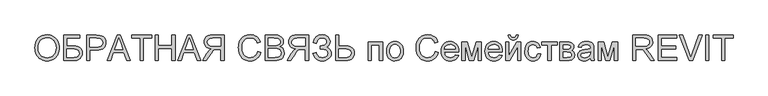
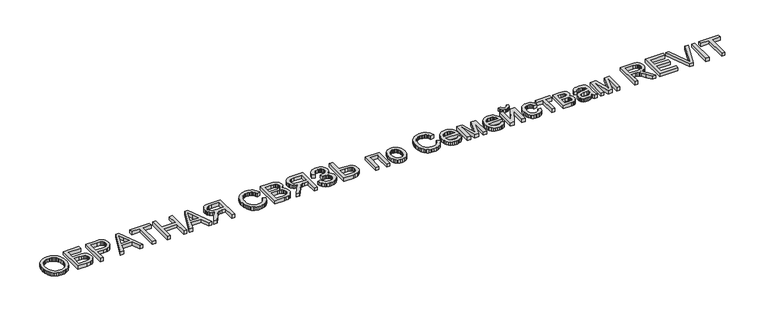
"""IFC4 building model written with IfcOpenShell, lengths in millimetres: proxy geometry, VALTEC_Ссылка : ПРЕДЛОЖЕНИЯ, ПОЖЕЛАНИЯ, ОШИБКИ по Семействам REVIT."""

from ifc_helpers import new_model, si_unit, origin, origin_with_axes, place, context, project, spatial, polyline, outline, extrude, source, transform, mapped, element, save


def generic_models_9d3dee3a(model_context):
    return source(origin(), model_context, "Body", "SweptSolid", [
        extrude(outline(polyline([(-89.3041113, 7.8024761), (-85.1194536, 66.7172448), (-72.5654805, 118.8721819), (-51.642192, 164.2672872), (-22.3495881, 202.9025609), (13.5572274, 233.7509991), (54.323151, 255.7855977), (99.9481826, 269.0063569), (150.4323223, 273.4132767), (184.2238164, 271.3439404), (216.3138562, 265.1359318), (246.7024419, 254.7892507), (275.3895733, 240.3038971), (301.5705086, 222.116731), (324.440506, 200.6646121), (343.9995654, 175.9475406), (360.2476869, 147.9655163), (373.0162578, 117.3546686), (382.1366656, 84.7511268), (387.6089102, 50.1548908), (389.4329918, 13.5659607), (387.5131076, -23.5058145), (381.7534552, -58.5695672), (372.1540343, -91.6252973), (358.7148452, -122.6730048), (341.7539524, -150.8926195), (321.5894205, -175.4640711), (298.2212496, -196.3873596), (271.6494397, -213.662485), (242.9201551, -227.1821483), (213.0795604, -236.8390506), (182.1276554, -242.6331921), (150.0644403, -244.5645725), (115.6828021, -242.4300906), (83.1712308, -236.0266446), (52.5297263, -225.3542346), (23.7582886, -210.4128607), (-2.3919899, -191.7811704), (-25.1700168, -170.0378117), (-44.575792, -145.1827844), (-60.6093156, -117.2160886), (-73.1632887, -87.2605307), (-82.1304123, -56.4389173), (-87.5106865, -24.7512483), (-89.3041113, 7.8024761)]), holes=[polyline([(-26.5189174, 7.1893395), (-23.3804241, -34.4349754), (-13.9649443, -71.3841233), (1.727522, -103.6581042), (23.6969749, -131.256918), (50.4029085, -153.3604946), (80.3048169, -169.1487635), (113.4027002, -178.6217249), (149.6965583, -181.7793787), (186.6112172, -178.5910681), (220.0999751, -169.0261362), (250.1628319, -153.0845831), (276.7997876, -130.7664087), (298.6082921, -102.585115), (314.1857954, -69.054204), (323.5322973, -30.1736756), (326.647798, 14.0564701), (321.313509, 69.6373082), (305.3106422, 117.6765654), (293.411959, 138.5653649), (279.0530648, 156.9632968), (262.2339599, 172.870361), (242.9546441, 186.2865575), (221.8129256, 196.9359748), (199.4066129, 204.5427015), (175.7357057, 209.1067375), (150.8002043, 210.6280828), (115.7671084, 207.6965232), (83.2632013, 198.9018442), (53.2884829, 184.244046), (25.8429532, 163.7231284), (2.9346348, 136.3504087), (-13.4284497, 101.137204), (-23.2463005, 58.0835143), (-26.5189174, 7.1893395)])]), origin_with_axes(), (0.0, 0.0, 1.0), 70.0),
        extrude(outline(polyline([(475.7626333, 265.5651274), (789.6886026, 265.5651274), (789.6886026, 202.7799336), (538.5478272, 202.7799336), (538.5478272, 53.6650982), (656.1474383, 53.6650982), (714.6100187, 50.4767876), (759.7675336, 40.9118557), (778.0619987, 33.1173559), (794.4404117, 22.4870991), (808.9027726, 9.0210853), (821.4490815, -7.2806857), (831.588829, -25.7207707), (838.8315057, -45.6017268), (844.6256472, -89.6862526), (840.5023031, -126.7043783), (828.1322711, -161.2393006), (807.5768646, -191.4822663), (778.8973974, -215.6245223), (759.6525705, -224.852229), (734.6595874, -231.4434481), (667.4291528, -236.7164233), (475.7626333, -236.7164233), (475.7626333, 265.5651274)]), holes=[polyline([(538.5478272, -173.9312295), (673.0700101, -173.9312295), (720.618758, -168.7502247), (739.3117618, -162.2739688), (754.6171857, -153.2072104), (766.5273653, -141.5499497), (775.0346364, -127.3021866), (780.1389991, -110.4639211), (781.8404533, -91.0351532), (777.9470355, -64.0264834), (766.2667822, -41.8615932), (747.6427562, -25.4295308), (722.9180204, -15.6193442), (685.3787285, -10.7449078), (628.311034, -9.1200956), (538.5478272, -9.1200956), (538.5478272, -173.9312295)])]), origin_with_axes(), (0.0, 0.0, 1.0), 70.0),
        extrude(outline(polyline([(930.9552887, -236.7164233), (930.9552887, 265.5651274), (1117.1035783, 265.5651274), (1192.1515053, 260.7826615), (1225.6134384, 251.8461947), (1253.1586028, 237.2995275), (1275.3388214, 216.4835379), (1292.7059173, 188.7391041), (1303.9263181, 156.012935), (1307.6664518, 120.2517393), (1305.1410952, 89.4186296), (1297.5650253, 61.0533949), (1284.9382422, 35.1560353), (1267.260746, 11.7265508), (1242.9920306, -7.6945529), (1210.5915903, -21.5667698), (1170.059425, -29.8900999), (1121.3955349, -32.6645433), (993.7404825, -32.6645433), (993.7404825, -236.7164233), (930.9552887, -236.7164233)]), holes=[polyline([(993.7404825, 30.1206505), (1125.0743548, 30.1206505), (1155.2713353, 31.5615217), (1180.7471634, 35.8841351), (1201.5018393, 43.0884908), (1217.5353629, 53.1745889), (1229.499192, 65.8741819), (1238.0447842, 80.9190227), (1243.1721395, 98.3091112), (1244.8812579, 118.0444474), (1240.8498844, 146.2487337), (1228.7557638, 170.038436), (1210.101081, 187.9420264), (1186.3880207, 198.487977), (1123.6028268, 202.7799336), (993.7404825, 202.7799336), (993.7404825, 30.1206505)])]), origin_with_axes(), (0.0, 0.0, 1.0), 70.0),
        extrude(outline(polyline([(1335.5028561, -236.7164233), (1535.9985434, 265.5651274), (1589.4640601, 265.5651274), (1789.9597474, -236.7164233), (1723.618361, -236.7164233), (1666.1061424, -79.7534387), (1459.2338338, -79.7534387), (1401.8442425, -236.7164233), (1335.5028561, -236.7164233)]), holes=[polyline([(1482.2877721, -16.9682449), (1643.1748314, -16.9682449), (1597.925346, 106.5174782), (1562.7313018, 202.7799336), (1531.4613322, 117.3086834), (1482.2877721, -16.9682449)])]), origin_with_axes(), (0.0, 0.0, 1.0), 70.0),
        extrude(outline(polyline([(1982.6072856, -236.7164233), (1982.6072856, 202.7799336), (1817.7961517, 202.7799336), (1817.7961517, 265.5651274), (2210.2036133, 265.5651274), (2210.2036133, 202.7799336), (2045.3924794, 202.7799336), (2045.3924794, -236.7164233), (1982.6072856, -236.7164233)])), origin_with_axes(), (0.0, 0.0, 1.0), 70.0),
        extrude(outline(polyline([(2724.6252699, -236.7164233), (2925.1209572, 265.5651274), (2978.5864739, 265.5651274), (3179.0821612, -236.7164233), (3112.7407748, -236.7164233), (3055.2285562, -79.7534387), (2848.3562476, -79.7534387), (2790.9666563, -236.7164233), (2724.6252699, -236.7164233)]), holes=[polyline([(2871.4101859, -16.9682449), (3032.2972452, -16.9682449), (2987.0477597, 106.5174782), (2951.8537155, 202.7799336), (2920.5837459, 117.3086834), (2871.4101859, -16.9682449)])]), origin_with_axes(), (0.0, 0.0, 1.0), 70.0),
        extrude(outline(polyline([(3638.5667732, -236.7164233), (3575.7815794, -236.7164233), (3575.7815794, -16.9682449), (3499.9978884, -16.9682449), (3463.5775708, -19.1755368), (3433.7178156, -31.1317017), (3418.0981592, -43.5937043), (3400.5471223, -63.6892583), (3353.3355996, -132.6058187), (3287.9752318, -236.7164233), (3215.0119694, -236.7164233), (3298.766437, -100.6000851), (3349.6567797, -35.9754813), (3364.647971, -22.639759), (3385.3413332, -9.1200956), (3352.09783, -2.4752271), (3323.4911728, 7.5265646), (3299.5213615, 20.8852796), (3280.1883962, 37.6009178), (3265.3006717, 57.0526782), (3254.6665828, 78.6197602), (3248.2861295, 102.3021637), (3246.1593117, 128.0998886), (3251.2943312, 167.8771293), (3266.6993897, 204.0675206), (3290.7036899, 233.2528255), (3321.6364344, 252.0148073), (3363.9581922, 262.1775474), (3422.1295327, 265.5651274), (3638.5667732, 265.5651274), (3638.5667732, -236.7164233)]), holes=[polyline([(3575.7815794, 45.816949), (3575.7815794, 202.7799336), (3419.4317314, 202.7799336), (3369.7523336, 197.3536742), (3350.6952799, 190.5708499), (3335.4933228, 181.0748959), (3323.8782153, 169.4789488), (3315.5817099, 156.3961454), (3310.6038066, 141.8264855), (3308.9445055, 125.7699693), (3312.4240561, 103.5897506), (3322.8627077, 83.1569715), (3339.9998773, 66.2650565), (3363.5749818, 54.7074305), (3394.8909366, 48.0395694), (3435.2506572, 45.816949), (3575.7815794, 45.816949)])]), origin_with_axes(), (0.0, 0.0, 1.0), 70.0),
        extrude(outline(polyline([(4297.8113086, -58.1710283), (4360.5965024, -74.3578361), (4348.1728209, -113.403145), (4331.6257953, -147.5203679), (4310.9554257, -176.709505), (4286.161712, -200.9705561), (4257.8041416, -220.0429383), (4226.4422015, -233.6660684), (4192.0758918, -241.8399465), (4154.7052124, -244.5645725), (4116.4186602, -242.5029005), (4081.8799058, -236.3178845), (4051.0889492, -226.0095244), (4024.0457905, -211.5778203), (4000.3787155, -193.23737), (3979.7160101, -171.2027713), (3962.0576743, -145.4740243), (3947.4037082, -116.0511289), (3935.8958995, -84.2063437), (3927.6760362, -51.2119272), (3922.7441182, -17.0678796), (3921.1001455, 18.2257993), (3922.958716, 56.0946522), (3928.5344275, 91.4649732), (3937.82728, 124.3367623), (3950.8372734, 154.7100196), (3967.273168, 182.0827393), (3986.8437237, 205.9529158), (4009.5489406, 226.3205492), (4035.3888187, 243.1856394), (4063.485806, 256.4102307), (4092.9623509, 265.8563673), (4123.8184533, 271.5240493), (4156.0541131, 273.4132767), (4191.9647608, 270.9683942), (4224.8940314, 263.633747), (4254.8419251, 251.4093348), (4281.8084418, 234.2951578), (4305.3490574, 212.7434043), (4325.0192478, 187.2062625), (4340.8190131, 157.6837323), (4352.7483532, 124.175814), (4289.9631593, 109.2152795), (4280.0763307, 133.9055263), (4268.1968079, 155.0012595), (4254.324591, 172.502479), (4238.45968, 186.4091848), (4220.5101043, 197.0049527), (4200.3838935, 204.5733583), (4178.0810475, 209.1144017), (4153.6015665, 210.6280828), (4125.4356012, 208.9496212), (4099.6761973, 203.9142364), (4076.3233548, 195.5219284), (4055.3770737, 183.7726972), (4037.1017692, 169.1953731), (4021.7618564, 152.3187866), (4009.3573354, 133.1429376), (3999.8882061, 111.6678261), (3987.886056, 65.7132336), (3983.8853393, 18.3484267), (3988.62182, -39.6543012), (4002.8312621, -89.8088799), (4013.6224673, -111.4641003), (4027.0501601, -130.1992573), (4043.1143406, -146.014351), (4061.8150087, -158.9093813), (4103.492973, -176.0618794), (4148.4512185, -181.7793787), (4175.7472961, -179.8326698), (4200.8590744, -173.9925431), (4223.7865533, -164.2589987), (4244.5297329, -150.6320364), (4262.5981038, -133.1729701), (4277.5011567, -111.9431133), (4289.2388917, -86.942466), (4297.8113086, -58.1710283)])), origin_with_axes(), (0.0, 0.0, 1.0), 70.0),
        extrude(outline(polyline([(2280.8369563, -236.7164233), (2280.8369563, 265.5651274), (2343.6221502, 265.5651274), (2343.6221502, 61.5132474), (2610.459224, 61.5132474), (2610.459224, 265.5651274), (2673.2444179, 265.5651274), (2673.2444179, -236.7164233), (2610.459224, -236.7164233), (2610.459224, -1.2719464), (2343.6221502, -1.2719464), (2343.6221502, -236.7164233), (2280.8369563, -236.7164233)])), origin_with_axes(), (0.0, 0.0, 1.0), 70.0),
        extrude(outline(polyline([(5302.3744101, -236.7164233), (5239.5892162, -236.7164233), (5239.5892162, -16.9682449), (5163.8055252, -16.9682449), (5127.3852077, -19.1755368), (5097.5254524, -31.1317017), (5081.905796, -43.5937043), (5064.3547592, -63.6892583), (5017.1432365, -132.6058187), (4951.7828687, -236.7164233), (4878.8196063, -236.7164233), (4962.5740738, -100.6000851), (5013.4644165, -35.9754813), (5028.4556078, -22.639759), (5049.14897, -9.1200956), (5015.9054668, -2.4752271), (4987.2988096, 7.5265646), (4963.3289984, 20.8852796), (4943.9960331, 37.6009178), (4929.1083086, 57.0526782), (4918.4742197, 78.6197602), (4912.0937663, 102.3021637), (4909.9669485, 128.0998886), (4915.1019681, 167.8771293), (4930.5070266, 204.0675206), (4954.5113268, 233.2528255), (4985.4440712, 252.0148073), (5027.7658291, 262.1775474), (5085.9371696, 265.5651274), (5302.3744101, 265.5651274), (5302.3744101, -236.7164233)]), holes=[polyline([(5239.5892162, 45.816949), (5239.5892162, 202.7799336), (5083.2393683, 202.7799336), (5033.5599705, 197.3536742), (5014.5029167, 190.5708499), (4999.3009597, 181.0748959), (4987.6858521, 169.4789488), (4979.3893467, 156.3961454), (4974.4114435, 141.8264855), (4972.7521424, 125.7699693), (4976.2316929, 103.5897506), (4986.6703445, 83.1569715), (5003.8075141, 66.2650565), (5027.3826187, 54.7074305), (5058.6985735, 48.0395694), (5099.0582941, 45.816949), (5239.5892162, 45.816949)])]), origin_with_axes(), (0.0, 0.0, 1.0), 70.0),
        extrude(outline(polyline([(5388.7040516, -95.4497372), (5451.4892454, -79.7534387), (5464.7483257, -113.736538), (5490.0555413, -147.7502941), (5506.9972736, -162.6380186), (5526.4911872, -173.2721076), (5548.5372822, -179.6525609), (5573.1355585, -181.7793787), (5598.1630305, -180.1813913), (5620.3930665, -175.387429), (5639.8256664, -167.397492), (5656.4608304, -156.21158), (5669.7927206, -142.7647267), (5679.3154994, -127.9919653), (5685.0291666, -111.8932959), (5686.9337223, -94.4687185), (5684.8528898, -75.9098383), (5678.6103922, -59.3513164), (5668.2062295, -44.7931529), (5653.6404018, -32.2353477), (5635.4877246, -22.1224249), (5614.3230135, -14.8989086), (5590.1462687, -10.5647989), (5562.95749, -9.1200956), (5529.9707377, -9.1200956), (5529.9707377, 53.6650982), (5570.9742518, 54.9373568), (5601.0332765, 58.7541325), (5624.1945138, 67.7978982), (5644.5046656, 84.7511268), (5658.6681224, 107.0846296), (5663.3892747, 132.2692178), (5661.818112, 147.5708096), (5657.1046239, 161.8377332), (5638.2506717, 187.2675761), (5624.57006, 197.4877978), (5608.6668279, 204.7879561), (5590.5409754, 209.1680511), (5570.1925025, 210.6280828), (5535.4123256, 206.1368568), (5506.1197217, 192.6631787), (5483.67892, 171.7705471), (5469.4541495, 145.0224603), (5461.8665834, 119.1174365), (5459.3373947, 100.7539936), (5396.5522008, 116.4502921), (5404.325624, 153.2384916), (5416.0576108, 185.1215978), (5431.7481611, 212.0996108), (5451.3972749, 234.1725305), (5475.0049523, 251.340357), (5502.5711933, 263.6030901), (5534.0959978, 270.96073), (5569.5793659, 273.4132767), (5603.7655667, 270.8649274), (5634.2192981, 263.2198797), (5660.9405601, 250.4781335), (5683.9293527, 232.6396889), (5702.4115909, 211.3906715), (5715.6131896, 188.4172074), (5723.5341488, 163.7192963), (5726.1744685, 137.2969384), (5722.0664529, 104.2565368), (5709.742406, 75.1555381), (5689.202328, 49.9939425), (5660.4462187, 28.7717499), (5695.3643514, 12.692241), (5724.0898039, -14.4543846), (5735.3025405, -31.5953863), (5743.3116381, -50.3382075), (5748.1170967, -70.6828483), (5749.7189162, -92.6293085), (5746.6455687, -123.6808482), (5737.4255262, -152.088236), (5722.0587887, -177.851472), (5700.5453562, -200.9705561), (5673.9582178, -220.0429383), (5643.3703628, -233.6660684), (5608.781791, -241.8399465), (5570.1925025, -244.5645725), (5536.8302041, -242.2346532), (5506.5182605, -235.2448953), (5479.2566719, -223.5952988), (5455.0454381, -207.2858637), (5433.8845591, -186.31659), (5415.7740351, -160.6874776), (5400.7138659, -130.3985267), (5388.7040516, -95.4497372)])), origin_with_axes(), (0.0, 0.0, 1.0), 70.0),
        extrude(outline(polyline([(5836.0485577, 265.5651274), (5898.8337516, 265.5651274), (5898.8337516, 53.6650982), (6016.4333627, 53.6650982), (6087.3886025, 48.7446765), (6114.3704476, 42.5941494), (6135.6884428, 33.9834115), (6167.4489217, 10.7455321), (6188.7860774, -19.6047325), (6200.880198, -54.0170275), (6204.9115716, -89.4409979), (6202.4896818, -117.9058673), (6195.2240124, -144.5619835), (6183.1145633, -169.4093466), (6166.1613347, -192.4479566), (6142.616887, -211.8154108), (6110.7337808, -225.6493066), (6070.512016, -233.9496441), (6021.9515926, -236.7164233), (5836.0485577, -236.7164233), (5836.0485577, 265.5651274)]), holes=[polyline([(5898.8337516, -173.9312295), (6021.8289653, -173.9312295), (6056.0266624, -172.3792273), (6083.6944541, -167.7232208), (6104.8323405, -159.96321), (6119.4403213, -149.0991948), (6136.4548636, -121.7073146), (6142.1263777, -89.1957433), (6138.0183621, -62.8615238), (6125.6943153, -40.7579472), (6106.5184663, -24.3105564), (6081.8550442, -14.9448939), (6044.9288889, -10.5762952), (5988.9648404, -9.1200956), (5898.8337516, -9.1200956), (5898.8337516, -173.9312295)])]), origin_with_axes(), (0.0, 0.0, 1.0), 70.0),
        extrude(outline(polyline([(6479.5967946, 132.1465905), (6762.1301669, 132.1465905), (6762.1301669, -236.7164233), (6699.3449731, -236.7164233), (6699.3449731, 69.3613967), (6542.3819885, 69.3613967), (6542.3819885, -236.7164233), (6479.5967946, -236.7164233), (6479.5967946, 132.1465905)])), origin_with_axes(), (0.0, 0.0, 1.0), 70.0),
        extrude(outline(polyline([(6840.6116592, -52.2849164), (6844.0069035, -4.5139065), (6854.1926362, 36.6505559), (6871.1688574, 71.2084709), (6894.9355672, 99.1598383), (6918.8632253, 117.0251077), (6945.2740868, 129.7860144), (6974.1681519, 137.4425584), (7005.5454204, 139.9947397), (7040.1838095, 136.8869033), (7071.5035964, 127.563394), (7099.5047812, 112.0242118), (7124.1873638, 90.2693567), (7144.3327352, 63.0345928), (7158.7222861, 31.0556839), (7167.3560167, -5.6673698), (7170.2339269, -47.1345685), (7165.1448926, -110.5635558), (7158.7835998, -136.5988712), (7149.8777898, -158.8480677), (7138.5385938, -178.0660698), (7124.8771426, -195.0078021), (7108.8934363, -209.6732646), (7090.5874749, -222.0624572), (7049.8598724, -238.9390437), (7005.5454204, -244.5645725), (6970.4011935, -241.4682324), (6938.7901667, -232.179212), (6910.7123398, -216.6975114), (6886.167713, -195.0231305), (6866.2369394, -167.5239514), (6852.0006727, -134.567856), (6843.4589126, -96.1548443), (6840.6116592, -52.2849164)]), holes=[polyline([(6903.3968531, -52.1622891), (6905.2132704, -82.6160205), (6910.6625225, -108.9847289), (6919.7446092, -131.2684143), (6932.4595307, -149.4670768), (6947.9259029, -163.6037089), (6965.2623419, -173.7013032), (6984.4688478, -179.7598598), (7005.5454204, -181.7793787), (7026.5146941, -179.7483635), (7045.6445579, -173.655318), (7062.9350116, -163.5002421), (7078.3860554, -149.2831358), (7091.1009769, -130.9043645), (7100.1830637, -108.2642933), (7105.6323157, -81.3629224), (7107.4487331, -50.2002518), (7105.6208194, -20.7122106), (7100.1370784, 4.9667191), (7090.9975101, 26.8365373), (7078.2021144, 44.897244), (7062.6935891, 59.0338761), (7045.4146316, 69.1314704), (7026.3652421, 75.190027), (7005.5454204, 77.2095459), (6984.4688478, 75.1976912), (6965.2623419, 69.1621273), (6947.9259029, 59.102854), (6932.4595307, 45.0198713), (6919.7446092, 26.8748583), (6910.6625225, 4.6294939), (6905.2132704, -21.7162219), (6903.3968531, -52.1622891)])]), origin_with_axes(), (0.0, 0.0, 1.0), 70.0),
        extrude(outline(polyline([(7798.0858653, -58.1710283), (7860.8710592, -74.3578361), (7848.4473776, -113.403145), (7831.9003521, -147.5203679), (7811.2299825, -176.709505), (7786.4362688, -200.9705561), (7758.0786984, -220.0429383), (7726.7167583, -233.6660684), (7692.3504486, -241.8399465), (7654.9797692, -244.5645725), (7616.693217, -242.5029005), (7582.1544626, -236.3178845), (7551.363506, -226.0095244), (7524.3203473, -211.5778203), (7500.6532722, -193.23737), (7479.9905668, -171.2027713), (7462.3322311, -145.4740243), (7447.6782649, -116.0511289), (7436.1704563, -84.2063437), (7427.9505929, -51.2119272), (7423.0186749, -17.0678796), (7421.3747023, 18.2257993), (7423.2332728, 56.0946522), (7428.8089843, 91.4649732), (7438.1018367, 124.3367623), (7451.1118302, 154.7100196), (7467.5477248, 182.0827393), (7487.1182805, 205.9529158), (7509.8234974, 226.3205492), (7535.6633754, 243.1856394), (7563.7603628, 256.4102307), (7593.2369077, 265.8563673), (7624.09301, 271.5240493), (7656.3286699, 273.4132767), (7692.2393175, 270.9683942), (7725.1685882, 263.633747), (7755.1164819, 251.4093348), (7782.0829985, 234.2951578), (7805.6236141, 212.7434043), (7825.2938046, 187.2062625), (7841.0935698, 157.6837323), (7853.0229099, 124.175814), (7790.2377161, 109.2152795), (7780.3508875, 133.9055263), (7768.4713647, 155.0012595), (7754.5991478, 172.502479), (7738.7342368, 186.4091848), (7720.7846611, 197.0049527), (7700.6584503, 204.5733583), (7678.3556043, 209.1144017), (7653.8761232, 210.6280828), (7625.710158, 208.9496212), (7599.9507541, 203.9142364), (7576.5979116, 195.5219284), (7555.6516305, 183.7726972), (7537.376326, 169.1953731), (7522.0364132, 152.3187866), (7509.6318922, 133.1429376), (7500.1627629, 111.6678261), (7488.1606128, 65.7132336), (7484.1598961, 18.3484267), (7488.8963768, -39.6543012), (7503.1058189, -89.8088799), (7513.8970241, -111.4641003), (7527.3247169, -130.1992573), (7543.3888973, -146.014351), (7562.0895654, -158.9093813), (7603.7675298, -176.0618794), (7648.7257753, -181.7793787), (7676.0218529, -179.8326698), (7701.1336312, -173.9925431), (7724.0611101, -164.2589987), (7744.8042897, -150.6320364), (7762.8726606, -133.1729701), (7777.7757135, -111.9431133), (7789.5134484, -86.942466), (7798.0858653, -58.1710283)])), origin_with_axes(), (0.0, 0.0, 1.0), 70.0),
        extrude(outline(polyline([(8197.6057121, -126.8423341), (8259.1646326, -134.6904833), (8249.7261602, -159.3462412), (8236.984414, -181.0742715), (8220.9393941, -199.8745743), (8201.5911004, -215.7471496), (8179.1388024, -228.3547721), (8153.7817694, -237.3602168), (8125.5200016, -242.7634836), (8094.3534988, -244.5645725), (8055.3963283, -241.4567361), (8020.6851293, -232.1332268), (7990.2199015, -216.5940446), (7964.0006452, -194.8391895), (7942.9164083, -167.474134), (7927.8562391, -135.1043506), (7918.8201376, -97.7298391), (7915.8081038, -55.3505997), (7918.8507945, -11.5343212), (7927.9788665, 27.0856241), (7943.1923198, 60.5092362), (7964.4911545, 88.7365151), (7990.641433, 111.1619884), (8020.4092178, 127.1801836), (8053.7945088, 136.7911007), (8090.7973062, 139.9947397), (8126.6083191, 136.7987649), (8158.993431, 127.2108404), (8187.9526418, 111.2309662), (8213.4859516, 88.8591424), (8234.3287658, 60.6931772), (8249.2164903, 27.3308787), (8258.149125, -11.2277529), (8261.1266699, -54.9827177), (8260.7587879, -71.9052895), (7978.5932976, -71.9052895), (7982.2299644, -96.9595862), (7989.4611449, -118.9022144), (8000.286839, -137.733174), (8014.7070468, -153.4524651), (8031.9246906, -165.8454898), (8051.1426928, -174.6976503), (8072.3610533, -180.0089466), (8095.5797721, -181.7793787), (8128.99572, -178.4990976), (8157.1386926, -168.6582542), (8180.00869, -151.6437119), (8197.6057121, -126.8423341)]), holes=[polyline([(7978.5932976, -9.1200956), (8198.3414761, -9.1200956), (8189.8495334, 24.0505976), (8173.2028731, 47.7789863), (8156.0810319, 60.6548561), (8136.5986146, 69.851906), (8114.7556211, 75.3701359), (8090.5520515, 77.2095459), (8048.2302936, 71.3387624), (8029.8170334, 64.000283), (8013.2355188, 53.7264119), (7999.3211488, 40.9923299), (7988.9093219, 26.273218), (7982.0000382, 9.5690761), (7978.5932976, -9.1200956)])]), origin_with_axes(), (0.0, 0.0, 1.0), 70.0),
        extrude(outline(polyline([(8323.9118638, 132.1465905), (8431.946543, 132.1465905), (8515.2105013, -163.1400243), (8604.9737081, 132.1465905), (8708.4711761, 132.1465905), (8708.4711761, -236.7164233), (8645.6859822, -236.7164233), (8645.6859822, 60.2869741), (8555.4322661, -236.7164233), (8473.0266992, -236.7164233), (8386.6970576, 74.5117446), (8386.6970576, -236.7164233), (8323.9118638, -236.7164233), (8323.9118638, 132.1465905)])), origin_with_axes(), (0.0, 0.0, 1.0), 70.0),
        extrude(outline(polyline([(9060.9021274, -126.8423341), (9122.461048, -134.6904833), (9113.0225755, -159.3462412), (9100.2808293, -181.0742715), (9084.2358094, -199.8745743), (9064.8875157, -215.7471496), (9042.4352177, -228.3547721), (9017.0781848, -237.3602168), (8988.8164169, -242.7634836), (8957.6499141, -244.5645725), (8918.6927437, -241.4567361), (8883.9815446, -232.1332268), (8853.5163169, -216.5940446), (8827.2970605, -194.8391895), (8806.2128237, -167.474134), (8791.1526545, -135.1043506), (8782.116553, -97.7298391), (8779.1045191, -55.3505997), (8782.1472098, -11.5343212), (8791.2752818, 27.0856241), (8806.4887352, 60.5092362), (8827.7875698, 88.7365151), (8853.9378483, 111.1619884), (8883.7056331, 127.1801836), (8917.0909242, 136.7911007), (8954.0937215, 139.9947397), (8989.9047345, 136.7987649), (9022.2898464, 127.2108404), (9051.2490572, 111.2309662), (9076.7823669, 88.8591424), (9097.6251812, 60.6931772), (9112.5129057, 27.3308787), (9121.4455404, -11.2277529), (9124.4230853, -54.9827177), (9124.0552033, -71.9052895), (8841.889713, -71.9052895), (8845.5263798, -96.9595862), (8852.7575603, -118.9022144), (8863.5832544, -137.733174), (8878.0034622, -153.4524651), (8895.221106, -165.8454898), (8914.4391081, -174.6976503), (8935.6574686, -180.0089466), (8958.8761875, -181.7793787), (8992.2921353, -178.4990976), (9020.435108, -168.6582542), (9043.3051053, -151.6437119), (9060.9021274, -126.8423341)]), holes=[polyline([(8841.889713, -9.1200956), (9061.6378914, -9.1200956), (9053.1459487, 24.0505976), (9036.4992884, 47.7789863), (9019.3774472, 60.6548561), (8999.8950299, 69.851906), (8978.0520364, 75.3701359), (8953.8484668, 77.2095459), (8911.526709, 71.3387624), (8893.1134487, 64.000283), (8876.5319342, 53.7264119), (8862.6175641, 40.9923299), (8852.2057373, 26.273218), (8845.2964535, 9.5690761), (8841.889713, -9.1200956)])]), origin_with_axes(), (0.0, 0.0, 1.0), 70.0),
        extrude(outline(polyline([(9391.2601591, 265.5651274), (9438.3490545, 265.5651274), (9428.2169712, 225.358691), (9419.3226576, 209.2217006), (9407.8761626, 195.728862), (9394.1074125, 185.0794447), (9378.2463335, 177.472718), (9360.2929257, 172.908682), (9340.2471891, 171.3873367), (9318.4731735, 172.8971857), (9299.0137488, 177.4267328), (9281.868915, 184.9759779), (9267.0386721, 195.544921), (9254.7376179, 208.980278), (9245.1803502, 225.1287648), (9238.3668691, 243.9903813), (9234.2971745, 265.5651274), (9281.3860699, 265.5651274), (9288.0079458, 244.8870936), (9299.0444057, 230.1871422), (9314.5567631, 221.4039596), (9334.6063319, 218.476232), (9357.2310746, 221.3119891), (9373.6018233, 229.8192602), (9384.6382832, 244.4272411), (9391.2601591, 265.5651274)])), origin_with_axes(), (0.0, 0.0, 1.0), 70.0),
        extrude(outline(polyline([(9901.3898591, 132.1465905), (10199.6195298, 132.1465905), (10199.6195298, 69.3613967), (10081.8972914, 69.3613967), (10081.8972914, -236.7164233), (10019.1120975, -236.7164233), (10019.1120975, 69.3613967), (9901.3898591, 69.3613967), (9901.3898591, 132.1465905)])), origin_with_axes(), (0.0, 0.0, 1.0), 70.0),
        extrude(outline(polyline([(10254.5565745, 132.1465905), (10392.8802046, 132.1465905), (10437.3479408, 130.0465975), (10468.7252093, 123.7466183), (10491.8098045, 111.8517671), (10511.3995208, 92.967158), (10524.7812283, 68.3650496), (10529.2417975, 39.3177004), (10526.5439962, 15.9112085), (10518.4505923, -4.276316), (10504.930929, -21.3368436), (10485.9543494, -35.3623446), (10509.1922288, -48.406827), (10528.1381515, -69.3914292), (10540.7381099, -96.6606821), (10544.938096, -128.5591167), (10541.4508812, -154.2572069), (10534.300175, -176.4144329), (10523.4859771, -195.0307947), (10509.0082878, -210.1062923), (10490.8441143, -221.7482246), (10468.970464, -230.0638906), (10443.3873369, -235.0532901), (10414.094733, -236.7164233), (10254.5565745, -236.7164233), (10254.5565745, 132.1465905)]), holes=[polyline([(10317.3417683, -9.1200956), (10379.3911982, -9.1200956), (10430.5881092, -5.931785), (10443.7705473, -1.1493191), (10455.4814575, 6.8214575), (10463.7128171, 17.367408), (10466.4566037, 29.8753959), (10461.6434809, 48.6067208), (10447.2041126, 60.6548561), (10421.1151478, 67.1847615), (10381.3532355, 69.3613967), (10317.3417683, 69.3613967), (10317.3417683, -9.1200956)]), polyline([(10317.3417683, -173.9312295), (10394.3517326, -173.9312295), (10436.3209369, -171.0954724), (10462.6551564, -162.5882013), (10476.7879564, -147.1218291), (10482.1529021, -123.4087688), (10479.4704293, -107.6971419), (10471.4230106, -93.1811315), (10459.0683069, -81.8227749), (10443.463979, -75.5841094), (10388.220366, -71.9052895), (10317.3417683, -71.9052895), (10317.3417683, -173.9312295)])]), origin_with_axes(), (0.0, 0.0, 1.0), 70.0),
        extrude(outline(polyline([(10858.8640652, -189.6275279), (10828.8663542, -215.3486108), (10797.979595, -232.179212), (10765.4986805, -241.4682324), (10730.7185036, -244.5645725), (10702.763304, -242.7021699), (10678.249334, -237.1149621), (10657.1765935, -227.8029491), (10639.5450824, -214.7661309), (10625.6230482, -198.832242), (10615.678738, -180.8290169), (10609.7121519, -160.7564555), (10607.7232898, -138.6145579), (10610.7276595, -112.5869068), (10619.7407683, -88.9504886), (10633.6436421, -68.7169789), (10651.3173063, -52.8980531), (10672.0873106, -40.9418882), (10695.2792047, -32.2966613), (10749.6031126, -22.8543568), (10813.7985208, -12.9215429), (10858.4961832, -1.2719464), (10858.8640652, 12.7075694), (10854.5414518, 40.7279147), (10841.5736114, 59.0607008), (10828.4984722, 67.0008205), (10812.5722475, 72.6723346), (10772.1665417, 77.2095459), (10734.7652055, 74.1898479), (10708.6455838, 65.1307537), (10690.8339639, 48.3767945), (10678.3566329, 22.2725013), (10615.5714391, 30.1206505), (10626.4699432, 64.4563034), (10642.733393, 91.4343164), (10665.8793019, 112.0663649), (10697.425183, 127.3641246), (10736.0068072, 136.837086), (10780.2599456, 139.9947397), (10822.7043308, 137.2049679), (10856.3502049, 128.8356526), (10881.7187342, 116.2510226), (10899.3310847, 100.8153073), (10911.011338, 81.7314288), (10918.5835758, 58.2023095), (10921.649259, 3.2652649), (10921.649259, -74.8483454), (10924.8375697, -183.925357), (10929.5587219, -210.8880416), (10937.3455575, -236.7164233), (10874.5603637, -236.7164233), (10864.5049225, -214.8887583), (10858.8640652, -189.6275279)]), holes=[polyline([(10858.8640652, -64.0571402), (10816.6802631, -74.5111203), (10757.5738892, -83.3096313), (10703.5565496, -93.4876999), (10689.5003917, -100.4468009), (10679.0923969, -110.0423896), (10672.654462, -121.538702), (10670.5084837, -134.199974), (10675.1836507, -152.8699852), (10689.2091518, -168.1677449), (10712.2784185, -178.3764702), (10744.0848827, -181.7793787), (10777.8073989, -178.0239167), (10807.6058405, -166.7575306), (10831.7634249, -150.1568555), (10848.5633693, -130.3985267), (10856.0129797, -110.0423896), (10858.4961832, -81.8381033), (10858.8640652, -64.0571402)])]), origin_with_axes(), (0.0, 0.0, 1.0), 70.0),
        extrude(outline(polyline([(11007.9789006, 132.1465905), (11116.0135798, 132.1465905), (11199.2775381, -163.1400243), (11289.0407449, 132.1465905), (11392.5382129, 132.1465905), (11392.5382129, -236.7164233), (11329.753019, -236.7164233), (11329.753019, 60.2869741), (11239.4993029, -236.7164233), (11157.093736, -236.7164233), (11070.7640944, 74.5117446), (11070.7640944, -236.7164233), (11007.9789006, -236.7164233), (11007.9789006, 132.1465905)])), origin_with_axes(), (0.0, 0.0, 1.0), 70.0),
        extrude(outline(polyline([(11690.7678836, -236.7164233), (11690.7678836, 265.5651274), (11907.2051241, 265.5651274), (11965.3764646, 262.1775474), (12007.6982225, 252.0148073), (12038.6309669, 233.2528255), (12062.6352671, 204.0675206), (12078.0403256, 167.8771293), (12083.1753452, 128.0998886), (12081.0485274, 102.3021637), (12074.668074, 78.6197602), (12064.0339851, 57.0526782), (12049.1462606, 37.6009178), (12029.8132953, 20.8852796), (12005.8434841, 7.5265646), (11977.2368269, -2.4752271), (11943.9933236, -9.1200956), (11964.6866859, -22.639759), (11979.6778772, -35.9754813), (12030.5682198, -100.6000851), (12114.3226874, -236.7164233), (12041.359425, -236.7164233), (11975.9990572, -132.6058187), (11928.7875345, -63.6892583), (11911.2364977, -43.5937043), (11895.6168413, -31.1317017), (11865.757086, -19.1755368), (11829.3367685, -16.9682449), (11753.5530775, -16.9682449), (11753.5530775, -236.7164233), (11690.7678836, -236.7164233)]), holes=[polyline([(11753.5530775, 45.816949), (11894.0839996, 45.816949), (11934.4437202, 48.0395694), (11965.759675, 54.7074305), (11989.3347796, 66.2650565), (12006.4719492, 83.1569715), (12016.9106008, 103.5897506), (12020.3901513, 125.7699693), (12018.7308502, 141.8264855), (12013.752947, 156.3961454), (12005.4564416, 169.4789488), (11993.841334, 181.0748959), (11978.639377, 190.5708499), (11959.5823232, 197.3536742), (11909.9029254, 202.7799336), (11753.5530775, 202.7799336), (11753.5530775, 45.816949)])]), origin_with_axes(), (0.0, 0.0, 1.0), 70.0),
        extrude(outline(polyline([(12193.0494344, -236.7164233), (12193.0494344, 265.5651274), (12554.064299, 265.5651274), (12554.064299, 202.7799336), (12255.8346282, 202.7799336), (12255.8346282, 53.6650982), (12538.3680005, 53.6650982), (12538.3680005, -9.1200956), (12255.8346282, -9.1200956), (12255.8346282, -173.9312295), (12561.9124482, -173.9312295), (12561.9124482, -236.7164233), (12193.0494344, -236.7164233)])), origin_with_axes(), (0.0, 0.0, 1.0), 70.0),
        extrude(outline(polyline([(13126.9791928, -236.7164233), (13126.9791928, 265.5651274), (13189.7643866, 265.5651274), (13189.7643866, -236.7164233), (13126.9791928, -236.7164233)])), origin_with_axes(), (0.0, 0.0, 1.0), 70.0),
        extrude(outline(polyline([(4446.9261439, -236.7164233), (4446.9261439, 265.5651274), (4638.5926634, 265.5651274), (4691.3070877, 261.8709791), (4732.4638859, 250.788534), (4764.0097669, 232.0418806), (4787.8914398, 205.3551076), (4802.9286164, 173.9625106), (4807.9410085, 141.0983857), (4803.725694, 110.85542), (4791.0797504, 82.4212075), (4769.9112073, 57.5431876), (4740.1280941, 37.9687997), (4759.077849, 29.8907243), (4775.7053487, 19.390759), (4790.0105934, 6.4689039), (4801.9935829, -8.874841), (4818.226376, -44.9579333), (4823.637307, -86.9884513), (4819.9431586, -122.0138829), (4808.8607135, -154.4947974), (4792.3213522, -182.1166039), (4772.256455, -202.5647114), (4747.6850034, -217.3719617), (4717.6259787, -228.0711964), (4681.0983623, -234.5551166), (4637.1211354, -236.7164233), (4446.9261439, -236.7164233)]), holes=[polyline([(4509.7113378, 61.5132474), (4624.3678929, 61.5132474), (4664.4670304, 62.8621481), (4691.3224161, 66.90885), (4714.7595648, 76.2131988), (4731.6054945, 90.1467294), (4741.7682347, 108.4948439), (4745.1558147, 131.0429445), (4741.9981609, 152.9319232), (4732.5251995, 172.0004733), (4717.1661262, 186.8843657), (4696.3501367, 196.2193713), (4664.4057168, 201.139793), (4615.6613524, 202.7799336), (4509.7113378, 202.7799336), (4509.7113378, 61.5132474)]), polyline([(4509.7113378, -173.9312295), (4638.4700361, -173.9312295), (4685.0684221, -171.4786828), (4706.6968178, -166.037095), (4724.4931093, -157.8057354), (4738.9631344, -146.0181831), (4750.612731, -129.9080174), (4758.2922676, -110.1956738), (4760.8521132, -87.6015879), (4757.8477435, -61.3593389), (4748.8346346, -38.7959099), (4733.0923509, -21.1529026), (4709.9004568, -9.6719186), (4677.0516603, -3.3719395), (4632.3386695, -1.2719464), (4509.7113378, -1.2719464), (4509.7113378, -173.9312295)])]), origin_with_axes(), (0.0, 0.0, 1.0), 70.0),
        extrude(outline(polyline([(9187.2082791, 132.1465905), (9249.993473, 132.1465905), (9249.993473, -149.1605085), (9404.2586563, 132.1465905), (9485.4379499, 132.1465905), (9485.4379499, -236.7164233), (9422.652756, -236.7164233), (9422.652756, 42.873893), (9269.3685914, -236.7164233), (9187.2082791, -236.7164233), (9187.2082791, 132.1465905)])), origin_with_axes(), (0.0, 0.0, 1.0), 70.0),
        extrude(outline(polyline([(9815.0602176, -103.2978864), (9877.8454114, -111.1460356), (9871.0166019, -140.7720326), (9860.3403598, -166.9874568), (9845.8166852, -189.7923084), (9827.4455781, -209.1865873), (9806.0011234, -224.6644559), (9782.2574063, -235.7200762), (9756.2144267, -242.3534485), (9727.8721847, -244.5645725), (9692.65898, -241.4797287), (9661.0862742, -232.2251973), (9633.1540673, -216.8009782), (9608.8623593, -195.2070715), (9589.199833, -167.8496802), (9575.1551715, -135.1350074), (9566.7283745, -97.063053), (9563.9194422, -53.6338171), (9568.7172365, 2.238261), (9583.1106196, 50.6607286), (9593.9631385, 71.6108418), (9607.3295176, 89.763519), (9623.2097571, 105.1187602), (9641.6038568, 117.6765654), (9682.6073709, 134.4151962), (9727.0137934, 139.9947397), (9754.8693582, 138.0786877), (9780.0654428, 132.3305315), (9802.6020471, 122.7502712), (9822.4791711, 109.3379068), (9839.3595898, 92.4000066), (9852.9060778, 72.243139), (9863.1186353, 48.8673039), (9869.9972622, 22.2725013), (9807.2120683, 14.4243521), (9795.8230549, 41.8162323), (9778.088077, 61.4519338), (9754.9881534, 73.2701429), (9727.5043027, 77.2095459), (9706.1709791, 75.2705012), (9686.9299843, 69.4533672), (9669.7813184, 59.7581438), (9654.7249813, 46.184831), (9642.4660803, 28.4191963), (9633.7097224, 6.1470072), (9628.4559076, -20.6317364), (9626.704636, -51.9170344), (9628.4175866, -83.6736812), (9633.5564382, -110.7628252), (9642.1211909, -133.1844664), (9654.1118447, -150.9386048), (9668.8692776, -164.4314434), (9685.7343678, -174.0691852), (9704.7071153, -179.8518303), (9725.7875201, -181.7793787), (9758.2990914, -176.9662559), (9784.9552076, -162.5268876), (9795.7349165, -151.6053909), (9804.3456544, -138.0933918), (9815.0602176, -103.2978864)])), origin_with_axes(), (0.0, 0.0, 1.0), 70.0),
        extrude(outline(polyline([(12804.4693104, -236.7164233), (12604.5867597, 265.5651274), (12671.7865374, 265.5651274), (12805.5729564, -96.3081285), (12832.6735967, -177.8553041), (12859.406355, -96.3081285), (12993.5606559, 265.5651274), (13060.7604337, 265.5651274), (12869.3391688, -236.7164233), (12804.4693104, -236.7164233)])), origin_with_axes(), (0.0, 0.0, 1.0), 70.0),
        extrude(outline(polyline([(13440.905162, -236.7164233), (13440.905162, 202.7799336), (13276.0940282, 202.7799336), (13276.0940282, 265.5651274), (13668.5014897, 265.5651274), (13668.5014897, 202.7799336), (13503.6903559, 202.7799336), (13503.6903559, -236.7164233), (13440.905162, -236.7164233)])), origin_with_axes(), (0.0, 0.0, 1.0), 70.0),
    ])


if __name__ == "__main__":
    model = new_model("IFC4")
    model_context = context("Model", 3, world=origin())
    ifc_project = project(units=[si_unit("LENGTHUNIT", "METRE", prefix="MILLI")], contexts=[model_context])
    site = spatial("IfcSite", under=ifc_project)
    building = spatial("IfcBuilding", under=site)
    placement = place(None, origin())
    generic_models_shape = generic_models_9d3dee3a(model_context)
    element("IfcBuildingElementProxy", 1, Name="VALTEC_Ссылка : ПРЕДЛОЖЕНИЯ, ПОЖЕЛАНИЯ, ОШИБКИ по Семействам REVIT", ObjectType="VALTEC_Ссылка : ПРЕДЛОЖЕНИЯ, ПОЖЕЛАНИЯ, ОШИБКИ по Семействам REVIT", at=placement, inside=building, context=model_context, shape_type="MappedRepresentation", body=[
        mapped(generic_models_shape, transform((0.0, 0.0, 0.0), x_axis=(1.0, 0.0, 0.0), y_axis=(0.0, 1.0, 0.0), z_axis=(0.0, 0.0, 1.0))),
    ])
    save(model, "model.ifc")
